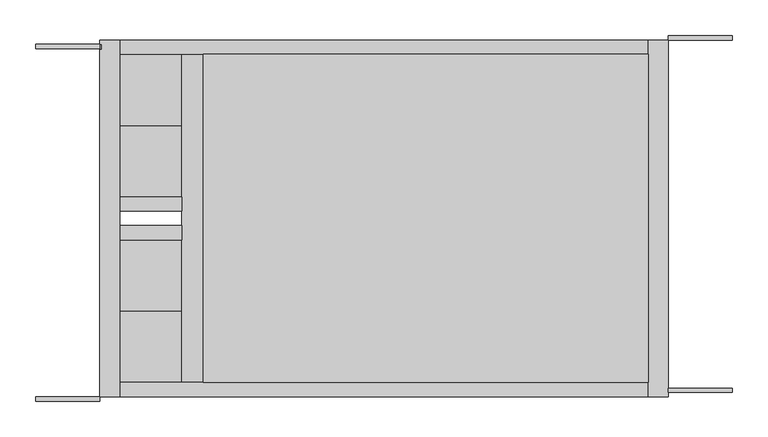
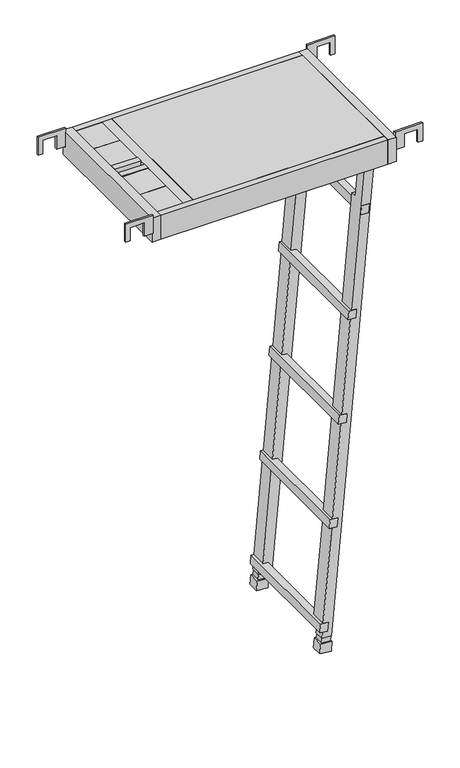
"""IFC4 building model written with IfcOpenShell, lengths in millimetres: proxy geometry, AK_アルミハッチ式布板NHYA-509(タラップ式)_軽 : AK_アルミハッチ式布板NHYA-509(タラップ式)_軽."""

from ifc_helpers import new_model, si_unit, point, frame, origin, place, context, project, spatial, polyline, circle_curve, ellipse_curve, trimmed, outline, extrude, faceted_brep, source, transform, mapped, element, save
from ifc_brep_helpers import plane_surface, cylinder_surface, revolved_surface, advanced_brep


def generic_models_0a2738e6(model_context):
    return source(origin(), model_context, "Body", "SolidModel", [
        extrude(outline(polyline([(38.4, 1763.0), (-23.2, 1763.0), (-23.2, 1792.5), (22.0, 1792.5), (22.0, 1837.5), (-23.2, 1837.5), (-23.2, 1852.5), (38.4, 1852.5), (38.4, 1763.0)])), frame((0.0, 12.0, 0.0), z_axis=(0.0, 1.0, 0.0), x_axis=(0.0, 0.0, 1.0)), (0.0, 0.0, 1.0), 6.0),
        extrude(outline(polyline([(38.4, 1763.0), (-23.2, 1763.0), (-23.2, 1792.5), (22.0, 1792.5), (22.0, 1837.5), (-23.2, 1837.5), (-23.2, 1852.5), (38.4, 1852.5), (38.4, 1763.0)])), frame((0.0, 506.0, 0.0), z_axis=(0.0, 1.0, 0.0), x_axis=(0.0, 0.0, 1.0)), (0.0, 0.0, 1.0), 6.0),
        extrude(outline(polyline([(38.4, 877.5), (-23.2, 877.5), (-23.2, 892.5), (22.0, 892.5), (22.0, 937.5), (-23.2, 937.5), (-23.2, 967.0), (38.4, 967.0), (38.4, 877.5)])), frame((0.0, 0.0, 0.0), z_axis=(0.0, 1.0, 0.0), x_axis=(0.0, 0.0, 1.0)), (0.0, 0.0, 1.0), 6.0),
        extrude(outline(polyline([(38.4, 877.5), (-23.2, 877.5), (-23.2, 892.5), (22.0, 892.5), (22.0, 937.5), (-23.2, 937.5), (-23.2, 967.0), (38.4, 967.0), (38.4, 877.5)])), frame((0.0, 494.0, 0.0), z_axis=(0.0, 1.0, 0.0), x_axis=(0.0, 0.0, 1.0)), (0.0, 0.0, 1.0), 6.0),
        faceted_brep([(967.0, 6.0, 25.0), (995.0, 6.0, 25.0), (995.0, 506.0, 25.0), (967.0, 506.0, 25.0), (967.0, 500.0, 25.0), (969.5811142, 500.0, 25.0), (969.5811142, 492.5494495, 25.0), (967.0, 492.5494495, 25.0), (967.0, 6.0, -58.0), (967.0, 506.0, -58.0), (995.0, 506.0, -58.0), (995.0, 6.0, -58.0), (967.0, 492.5494495, -31.8522814), (967.0, 500.0, -31.8522814), (969.5811142, 492.5494495, -31.8522814), (969.5811142, 500.0, -31.8522814)], [[[0, 1, 2, 3, 4, 5, 6, 7]], [[8, 9, 10, 11]], [[1, 0, 8, 11]], [[2, 1, 11, 10]], [[3, 2, 10, 9]], [[9, 8, 0, 7, 12, 13, 4, 3]], [[14, 15, 13, 12]], [[14, 12, 7, 6]], [[15, 14, 6, 5]], [[13, 15, 5, 4]]]),
        faceted_brep([(1696.8713185, 61.0, -7.6736677), (1728.7495289, 61.0, -10.4626497), (1728.7495289, 93.0919881, -10.4626497), (1696.8713185, 93.0919881, -7.6736677), (1679.8863585, 93.0919881, -201.8126482), (1679.8820205, 112.0, -201.8622315), (1648.1824256, 112.0, -564.1902597), (1648.1824256, 61.0, -564.1902597), (1645.6374521, 61.0, -593.2794397), (1645.6374521, 112.0, -593.2794397), (1617.6707877, 112.0, -912.9398761), (1617.6707877, 61.0, -912.9398761), (1615.1258406, 61.0, -942.0287555), (1615.1258406, 112.0, -942.0287555), (1587.1734055, 112.0, -1261.5265497), (1587.1734055, 61.0, -1261.5265497), (1556.6617677, 61.0, -1610.2761661), (1584.6284321, 61.0, -1290.6157297), (1584.6284321, 112.0, -1290.6157297), (1556.6617677, 112.0, -1610.2761661), (1556.6617677, 93.00001, -1610.2761661), (1711.7645689, 93.0919881, -204.6016302), (1584.192389, 61.0, -1662.7583192), (1584.192389, 93.00001, -1662.7583192), (1586.060255, 93.00001, -1641.4085133), (1586.060255, 112.0, -1641.4085133), (1711.7602309, 112.0, -204.6512136), (1664.5661476, 61.0, -565.6236607), (1662.0211838, 61.0, -594.7128222), (1634.0616404, 61.0, -914.3738797), (1631.5166964, 61.0, -943.4627825), (1603.5571276, 61.0, -1262.9599508), (1601.0121638, 61.0, -1292.0491122), (1573.0526204, 61.0, -1611.7101697), (1570.5076764, 61.0, -1640.7990725), (1554.1168205, 61.0, -1639.3650455), (1552.3141786, 61.0, -1659.9693372), (1703.6342525, 61.0, -247.3509654), (1678.5301647, 61.0, -245.1546225), (1681.0751108, 61.0, -216.0657553), (1706.1792017, 61.0, -218.2620631), (1570.5729014, 112.0, -1640.0535454), (1573.0526204, 112.0, -1611.7101697), (1601.0121638, 112.0, -1292.0491122), (1603.5571276, 112.0, -1262.9599508), (1631.5166964, 112.0, -943.4627825), (1634.0616404, 112.0, -914.3738797), (1662.0211838, 112.0, -594.7128222), (1664.5661476, 112.0, -565.6236607), (1678.5301647, 112.0, -245.1546225), (1703.6342525, 112.0, -247.3509654), (1706.1792017, 112.0, -218.2620631), (1681.0751108, 112.0, -216.0657553), (1570.5729014, 93.00001, -1640.0535454), (1586.0605663, 400.0, -1641.4085405), (1711.7605422, 400.0, -204.6512408), (1679.8820205, 400.0, -201.8622315), (1648.1824255, 400.0, -564.1902597), (1664.5661476, 400.0, -565.6236607), (1662.0211838, 400.0, -594.7128222), (1645.6374521, 400.0, -593.2794397), (1617.6707877, 400.0, -912.9398761), (1634.0616404, 400.0, -914.3738797), (1631.5166964, 400.0, -943.4627825), (1615.1258405, 400.0, -942.0287555), (1587.1734055, 400.0, -1261.5265497), (1603.5571276, 400.0, -1262.9599508), (1601.0121638, 400.0, -1292.0491122), (1584.628432, 400.0, -1290.6157297), (1556.6617677, 400.0, -1610.2761661), (1573.0526204, 400.0, -1611.7101697), (1570.5729014, 400.0, -1640.0535454), (1703.6342525, 400.0, -247.3509654), (1678.5301647, 400.0, -245.1546225), (1681.0751108, 400.0, -216.0657553), (1706.1792017, 400.0, -218.2620631), (1696.8713185, 451.0, -7.6736677), (1728.7495289, 451.0, -10.4626497), (1584.3535869, 451.0, -1660.9158185), (1552.4753765, 451.0, -1658.1268364), (1554.1168205, 451.0, -1639.3650455), (1570.5076764, 451.0, -1640.7990725), (1573.0526204, 451.0, -1611.7101697), (1556.6617677, 451.0, -1610.2761661), (1584.628432, 451.0, -1290.6157297), (1601.0121638, 451.0, -1292.0491122), (1603.5571276, 451.0, -1262.9599508), (1587.1734055, 451.0, -1261.5265497), (1615.1258405, 451.0, -942.0287555), (1631.5166964, 451.0, -943.4627825), (1634.0616404, 451.0, -914.3738797), (1617.6707877, 451.0, -912.9398761), (1645.6374521, 451.0, -593.2794397), (1662.0211838, 451.0, -594.7128222), (1664.5661476, 451.0, -565.6236607), (1648.1824256, 451.0, -564.1902597), (1678.5301647, 451.0, -245.1546225), (1703.6342525, 451.0, -247.3509654), (1706.1792017, 451.0, -218.2620631), (1681.0751108, 451.0, -216.0657553), (1696.8713184, 418.9080119, -7.6736677), (1679.8820205, 418.9080119, -201.8622315), (1556.6617677, 418.99999, -1610.2761661), (1570.5729014, 418.99999, -1640.0535454), (1586.0605663, 418.99999, -1641.4085405), (1584.3538982, 418.99999, -1660.9158457), (1728.7498401, 418.9080119, -10.4626769), (1711.7648802, 418.9080119, -204.6016575), (1703.6342525, 452.0, -247.3509654), (1678.5301647, 452.0, -245.1546225), (1681.0751108, 452.0, -216.0657553), (1706.1792017, 452.0, -218.2620631), (1703.6342525, 60.0, -247.3509654), (1706.1792017, 60.0, -218.2620631), (1681.0751108, 60.0, -216.0657553), (1678.5301647, 60.0, -245.1546225), (1636.9170612, 60.0, -592.5165088), (1662.0211838, 60.0, -594.7128222), (1664.5661476, 60.0, -565.6236607), (1639.4620596, 60.0, -563.4273206), (1636.9170612, 452.0, -592.5165088), (1639.4620596, 452.0, -563.4273206), (1664.5661476, 452.0, -565.6236607), (1662.0211838, 452.0, -594.7128222), (1608.9575496, 60.0, -912.1775719), (1606.4125766, 60.0, -941.2664368), (1631.5166964, 60.0, -943.4627825), (1634.0616404, 60.0, -914.3738797), (1608.9575496, 452.0, -912.1775719), (1634.0616404, 452.0, -914.3738797), (1631.5166964, 452.0, -943.4627825), (1606.4125766, 452.0, -941.2664368), (1578.4530396, 60.0, -1260.7636107), (1575.9080412, 60.0, -1289.8527988), (1601.0121638, 60.0, -1292.0491122), (1603.5571276, 60.0, -1262.9599508), (1578.4530396, 452.0, -1260.7636107), (1603.5571276, 452.0, -1262.9599508), (1601.0121638, 452.0, -1292.0491122), (1575.9080412, 452.0, -1289.8527988), (1547.9485296, 60.0, -1609.513862), (1545.4035566, 60.0, -1638.6027268), (1570.5076764, 60.0, -1640.7990725), (1573.0526204, 60.0, -1611.7101697), (1547.9485296, 452.0, -1609.513862), (1573.0526204, 452.0, -1611.7101697), (1570.5076764, 452.0, -1640.7990725), (1545.4035566, 452.0, -1638.6027268), (1554.1168205, 418.99999, -1639.3650455), (1570.5076764, 418.99999, -1640.7990725), (1570.5076764, 93.00001, -1640.7990725), (1554.1168205, 93.00001, -1639.3650455), (1552.4753765, 418.99999, -1658.1268364), (1552.3141786, 93.00001, -1659.9693372)], [[[0, 1, 2, 3]], [[0, 3, 4, 5, 6, 7]], [[8, 9, 10, 11]], [[12, 13, 14, 15]], [[16, 17, 18, 19, 20]], [[3, 2, 21, 4]], [[2, 1, 22, 23, 24, 25, 26, 21]], [[22, 1, 0, 7, 27, 28, 8, 11, 29, 30, 12, 15, 31, 32, 17, 16, 33, 34, 35, 36], [37, 38, 39, 40]], [[5, 26, 25, 41, 42, 19, 18, 43, 44, 14, 13, 45, 46, 10, 9, 47, 48, 6], [49, 50, 51, 52]], [[41, 25, 24, 53]], [[26, 5, 4, 21]], [[54, 55, 56, 57, 58, 59, 60, 61, 62, 63, 64, 65, 66, 67, 68, 69, 70, 71], [72, 73, 74, 75]], [[76, 77, 78, 79, 80, 81, 82, 83, 84, 85, 86, 87, 88, 89, 90, 91, 92, 93, 94, 95], [96, 97, 98, 99]], [[100, 76, 95, 57, 56, 101]], [[60, 92, 91, 61]], [[64, 88, 87, 65]], [[68, 84, 83, 102, 69]], [[54, 71, 103, 104]], [[55, 54, 104, 105, 78, 77, 106, 107]], [[56, 55, 107, 101]], [[108, 109, 110, 111]], [[112, 113, 114, 115]], [[109, 108, 97, 96]], [[112, 115, 38, 37]], [[72, 50, 49, 73]], [[110, 109, 96, 99]], [[115, 114, 39, 38]], [[73, 49, 52, 74]], [[111, 110, 99, 98]], [[114, 113, 40, 39]], [[74, 52, 51, 75]], [[108, 111, 98, 97]], [[113, 112, 37, 40]], [[50, 72, 75, 51]], [[76, 100, 106, 77]], [[106, 100, 101, 107]], [[116, 117, 118, 119]], [[120, 121, 122, 123]], [[117, 116, 120, 123, 93, 92, 60, 59, 47, 9, 8, 28]], [[118, 117, 28, 27]], [[123, 122, 94, 93]], [[47, 59, 58, 48]], [[119, 118, 27, 7, 6, 48, 58, 57, 95, 94, 122, 121]], [[116, 119, 121, 120]], [[124, 125, 126, 127]], [[128, 129, 130, 131]], [[125, 124, 128, 131]], [[126, 125, 131, 130, 89, 88, 64, 63, 45, 13, 12, 30]], [[127, 126, 30, 29]], [[130, 129, 90, 89]], [[45, 63, 62, 46]], [[124, 127, 29, 11, 10, 46, 62, 61, 91, 90, 129, 128]], [[132, 133, 134, 135]], [[136, 137, 138, 139]], [[133, 132, 136, 139]], [[134, 133, 139, 138, 85, 84, 68, 67, 43, 18, 17, 32]], [[135, 134, 32, 31]], [[138, 137, 86, 85]], [[43, 67, 66, 44]], [[132, 135, 31, 15, 14, 44, 66, 65, 87, 86, 137, 136]], [[140, 141, 142, 143]], [[144, 145, 146, 147]], [[141, 140, 144, 147]], [[142, 141, 147, 146, 81, 80, 148, 149, 150, 151, 35, 34]], [[143, 142, 34, 33]], [[146, 145, 82, 81]], [[70, 42, 41, 53, 150, 149, 103, 71]], [[140, 143, 33, 16, 20, 19, 42, 70, 69, 102, 83, 82, 145, 144]], [[78, 105, 152, 79]], [[79, 152, 148, 80]], [[152, 105, 104, 103, 149, 148]], [[22, 36, 153, 23]], [[153, 36, 35, 151]], [[23, 153, 151, 150, 53, 24]]]),
        advanced_brep(
        [(1701.4537998, 26.0, -30.0), (1693.4537998, 26.0, -30.0), (1693.4537998, 90.1689973, -30.0), (1701.4537998, 90.1689973, -30.0), (1713.8086099, 102.5238074, -30.0), (1713.8086099, 110.5238074, -30.0), (1728.8086099, 102.5238074, -30.0), (1728.8086099, 110.5238074, -30.0)],
        [
            (0, 1, circle_curve(frame((1697.4537998, 26.0, -30.0), z_axis=(0.0, -1.0, 0.0), x_axis=(-1.0, 0.0, 0.0)), 4.0)),
            (1, 0, circle_curve(frame((1697.4537998, 26.0, -30.0), z_axis=(0.0, -1.0, 0.0), x_axis=(-1.0, 0.0, 0.0)), 4.0)),
            (1, 2),
            (2, 3, circle_curve(frame((1697.4537998, 90.1689973, -30.0), z_axis=(0.0, -1.0, 0.0), x_axis=(-1.0, 0.0, 0.0)), 4.0)),
            (3, 0),
            (3, 2, circle_curve(frame((1697.4537998, 90.1689973, -30.0), z_axis=(0.0, -1.0, 0.0), x_axis=(-1.0, 0.0, 0.0)), 4.0)),
            (4, 3, circle_curve(frame((1713.8086099, 90.1689973, -30.0), z_axis=(0.0, 0.0, 1.0), x_axis=(-1.0, 0.0, 0.0)), 12.35481)),
            (2, 5, circle_curve(frame((1713.8086099, 90.1689973, -30.0), z_axis=(0.0, 0.0, -1.0), x_axis=(-1.0, 0.0, 0.0)), 20.35481)),
            (5, 4, circle_curve(frame((1713.8086099, 106.5238074, -30.0), z_axis=(-1.0, 0.0, 0.0), x_axis=(0.0, 1.0, 0.0)), 4.0)),
            (4, 5, circle_curve(frame((1713.8086099, 106.5238074, -30.0), z_axis=(-1.0, 0.0, 0.0), x_axis=(0.0, 1.0, 0.0)), 4.0)),
            (6, 7, circle_curve(frame((1728.8086099, 106.5238074, -30.0), z_axis=(1.0, 0.0, 0.0), x_axis=(0.0, 1.0, 0.0)), 4.0)),
            (7, 6, circle_curve(frame((1728.8086099, 106.5238074, -30.0), z_axis=(1.0, 0.0, 0.0), x_axis=(0.0, 1.0, 0.0)), 4.0)),
            (5, 7),
            (6, 4),
        ],
        [
            plane_surface(frame((1697.4537998, 26.0, -30.0), z_axis=(0.0, -1.0, 0.0), x_axis=(0.0, 0.0, 1.0))),
            cylinder_surface(frame((1697.4537998, 26.0, -30.0), z_axis=(0.0, -1.0, 0.0), x_axis=(-1.0, 0.0, 0.0)), 4.0),
            revolved_surface(trimmed(ellipse_curve(frame((1697.4537998, 90.1689973, -30.0), z_axis=(0.0, -1.0, 0.0), x_axis=(-1.0, 0.0, 0.0)), 4.0, 4.0), [point((1693.4537998, 90.1689973, -30.0))], [point((1701.4537998, 90.1689973, -30.0))], True, "CARTESIAN"), (1713.8086099, 90.1689973, -30.0), (0.0, 0.0, -1.0)),
            revolved_surface(trimmed(ellipse_curve(frame((1697.4537998, 90.1689973, -30.0), z_axis=(0.0, -1.0, 0.0), x_axis=(-1.0, 0.0, 0.0)), 4.0, 4.0), [point((1701.4537998, 90.1689973, -30.0))], [point((1693.4537998, 90.1689973, -30.0))], True, "CARTESIAN"), (1713.8086099, 90.1689973, -30.0), (0.0, 0.0, -1.0)),
            plane_surface(frame((1728.8086099, 106.5238074, -30.0), z_axis=(1.0, 0.0, 0.0), x_axis=(0.0, 0.0, 1.0))),
            cylinder_surface(frame((1713.8086099, 106.5238074, -30.0), z_axis=(-1.0, 0.0, 0.0), x_axis=(0.0, 1.0, 0.0)), 4.0),
        ],
        [
            (0, [[1, 2]]),
            (1, [[-2, 3, 4, 5]]),
            (1, [[-1, -5, 6, -3]]),
            (2, [[7, -4, 8, 9]]),
            (3, [[-8, -6, -7, 10]]),
            (4, [[11, 12]]),
            (5, [[-9, 13, -11, 14]]),
            (5, [[-10, -14, -12, -13]]),
        ],
    ),
        advanced_brep(
        [(1693.4537998, 486.0, -30.0), (1701.4537998, 486.0, -30.0), (1693.4537998, 421.8310027, -30.0), (1701.4537998, 421.8310027, -30.0), (1713.8086099, 409.4761926, -30.0), (1713.8086099, 401.4761926, -30.0), (1728.8086099, 401.4761926, -30.0), (1728.8086099, 409.4761926, -30.0)],
        [
            (0, 1, circle_curve(frame((1697.4537998, 486.0, -30.0), z_axis=(0.0, 1.0, 0.0), x_axis=(1.0, 0.0, 0.0)), 4.0)),
            (1, 0, circle_curve(frame((1697.4537998, 486.0, -30.0), z_axis=(0.0, 1.0, 0.0), x_axis=(1.0, 0.0, 0.0)), 4.0)),
            (0, 2),
            (2, 3, circle_curve(frame((1697.4537998, 421.8310027, -30.0), z_axis=(0.0, 1.0, 0.0), x_axis=(1.0, 0.0, 0.0)), 4.0)),
            (3, 1),
            (3, 2, circle_curve(frame((1697.4537998, 421.8310027, -30.0), z_axis=(0.0, 1.0, 0.0), x_axis=(1.0, 0.0, 0.0)), 4.0)),
            (4, 3, circle_curve(frame((1713.8086099, 421.8310027, -30.0), z_axis=(0.0, 0.0, -1.0), x_axis=(-1.0, 0.0, 0.0)), 12.35481)),
            (2, 5, circle_curve(frame((1713.8086099, 421.8310027, -30.0), z_axis=(0.0, 0.0, 1.0), x_axis=(-1.0, 0.0, 0.0)), 20.35481)),
            (5, 4, circle_curve(frame((1713.8086099, 405.4761926, -30.0), z_axis=(-1.0, 0.0, 0.0), x_axis=(0.0, 1.0, 0.0)), 4.0)),
            (4, 5, circle_curve(frame((1713.8086099, 405.4761926, -30.0), z_axis=(-1.0, 0.0, 0.0), x_axis=(0.0, 1.0, 0.0)), 4.0)),
            (6, 7, circle_curve(frame((1728.8086099, 405.4761926, -30.0), z_axis=(1.0, 0.0, 0.0), x_axis=(0.0, 1.0, 0.0)), 4.0)),
            (7, 6, circle_curve(frame((1728.8086099, 405.4761926, -30.0), z_axis=(1.0, 0.0, 0.0), x_axis=(0.0, 1.0, 0.0)), 4.0)),
            (5, 6),
            (7, 4),
        ],
        [
            plane_surface(frame((1697.4537998, 486.0, -30.0), z_axis=(0.0, 1.0, 0.0), x_axis=(0.0, 0.0, 1.0))),
            cylinder_surface(frame((1697.4537998, 486.0, -30.0), z_axis=(0.0, 1.0, 0.0), x_axis=(1.0, 0.0, 0.0)), 4.0),
            revolved_surface(trimmed(ellipse_curve(frame((1697.4537998, 421.8310027, -30.0), z_axis=(0.0, 1.0, 0.0), x_axis=(1.0, 0.0, 0.0)), 4.0, 4.0), [point((1693.4537998, 421.8310027, -30.0))], [point((1701.4537998, 421.8310027, -30.0))], True, "CARTESIAN"), (1713.8086099, 421.8310027, -30.0), (0.0, 0.0, 1.0)),
            revolved_surface(trimmed(ellipse_curve(frame((1697.4537998, 421.8310027, -30.0), z_axis=(0.0, 1.0, 0.0), x_axis=(1.0, 0.0, 0.0)), 4.0, 4.0), [point((1701.4537998, 421.8310027, -30.0))], [point((1693.4537998, 421.8310027, -30.0))], True, "CARTESIAN"), (1713.8086099, 421.8310027, -30.0), (0.0, 0.0, 1.0)),
            plane_surface(frame((1728.8086099, 405.4761926, -30.0), z_axis=(1.0, 0.0, 0.0), x_axis=(0.0, 0.0, 1.0))),
            cylinder_surface(frame((1713.8086099, 405.4761926, -30.0), z_axis=(-1.0, 0.0, 0.0), x_axis=(0.0, 1.0, 0.0)), 4.0),
        ],
        [
            (0, [[1, 2]]),
            (1, [[-1, 3, 4, 5]]),
            (1, [[-2, -5, 6, -3]]),
            (2, [[7, -4, 8, 9]]),
            (3, [[-8, -6, -7, 10]]),
            (4, [[11, 12]]),
            (5, [[-9, 13, -12, 14]]),
            (5, [[-10, -14, -11, -13]]),
        ],
    ),
        extrude(outline(polyline([(0.0, 0.0), (36.2320505, 0.0), (36.2320505, -37.6491626), (0.0, -37.6491626), (0.0, 0.0)])), frame((1581.7880686, 453.2223742, -1712.979101), z_axis=(0.08715574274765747, 0.0, 0.9961946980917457), x_axis=(0.0, -1.0, 0.0)), (0.0, 0.0, 1.0), 32.7312455),
        extrude(outline(polyline([(49.0120246, 0.0), (86.6611873, 0.0), (86.6611873, -36.2320505), (49.0120246, -36.2320505), (49.0120246, 0.0)])), frame((1630.6135877, 58.7776258, -1717.2507804), z_axis=(0.08715574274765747, 0.0, 0.9961946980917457), x_axis=(-0.9961946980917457, 0.0, 0.08715574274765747)), (0.0, 0.0, 1.0), 32.7312455),
        extrude(outline(polyline([(0.0, 0.0), (28.1293092, 0.0), (28.1293092, -28.1661485), (0.0, -28.1661485), (0.0, 0.0)])), frame((1580.7901708, 449.0672328, -1680.0355227), z_axis=(0.08715574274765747, 0.0, 0.9961946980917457), x_axis=(0.0, -1.0, 0.0)), (0.0, 0.0, 1.0), 19.3575202),
        extrude(outline(polyline([(20.3901804, 0.0), (48.5563289, 0.0), (48.5563289, -28.1293092), (20.3901804, -28.1293092), (20.3901804, 0.0)])), frame((1601.1027604, 62.9327672, -1681.812644), z_axis=(0.08715574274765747, 0.0, 0.9961946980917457), x_axis=(-0.9961946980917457, 0.0, 0.08715574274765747)), (0.0, 0.0, 1.0), 17.5079813),
        extrude(outline(polyline([(1735.0, 486.0), (1735.0, 26.0), (1112.0, 26.0), (1112.0, 486.0), (1735.0, 486.0)])), frame((0.0, 0.0, 22.5), z_axis=(0.0, 0.0, 1.0), x_axis=(1.0, 0.0, 0.0)), (0.0, 0.0, 1.0), 2.5),
        extrude(outline(polyline([(1112.0, 26.0), (1081.80002, 26.0), (1081.80002, 486.0), (1112.0, 486.0), (1112.0, 26.0)])), frame((0.0, 0.0, -20.0), z_axis=(0.0, 0.0, 1.0), x_axis=(1.0, 0.0, 0.0)), (0.0, 0.0, 1.0), 44.1),
        extrude(outline(polyline([(1081.80002, 486.0), (1081.80002, 386.0), (995.0, 386.0), (995.0, 486.0), (1081.80002, 486.0)])), frame((0.0, 0.0, 17.5), z_axis=(0.0, 0.0, 1.0), x_axis=(1.0, 0.0, 0.0)), (0.0, 0.0, 1.0), 5.0),
        extrude(outline(polyline([(1081.80002, 386.0), (1081.80002, 286.0), (995.0, 286.0), (995.0, 386.0), (1081.80002, 386.0)])), frame((0.0, 0.0, 17.5), z_axis=(0.0, 0.0, 1.0), x_axis=(1.0, 0.0, 0.0)), (0.0, 0.0, 1.0), 5.0),
        extrude(outline(polyline([(1081.80002, 226.0), (1081.80002, 126.0), (995.0, 126.0), (995.0, 226.0), (1081.80002, 226.0)])), frame((0.0, 0.0, 17.5), z_axis=(0.0, 0.0, 1.0), x_axis=(1.0, 0.0, 0.0)), (0.0, 0.0, 1.0), 5.0),
        extrude(outline(polyline([(1081.80002, 126.0), (1081.80002, 26.0), (995.0, 26.0), (995.0, 126.0), (1081.80002, 126.0)])), frame((0.0, 0.0, 17.5), z_axis=(0.0, 0.0, 1.0), x_axis=(1.0, 0.0, 0.0)), (0.0, 0.0, 1.0), 5.0),
        extrude(outline(polyline([(1081.80002, 286.0), (1081.80002, 266.0), (995.0, 266.0), (995.0, 286.0), (1081.80002, 286.0)])), frame((0.0, 0.0, -20.0), z_axis=(0.0, 0.0, 1.0), x_axis=(1.0, 0.0, 0.0)), (0.0, 0.0, 1.0), 45.0),
        extrude(outline(polyline([(1081.80002, 246.0), (1081.80002, 226.0), (995.0, 226.0), (995.0, 246.0), (1081.80002, 246.0)])), frame((0.0, 0.0, -20.0), z_axis=(0.0, 0.0, 1.0), x_axis=(1.0, 0.0, 0.0)), (0.0, 0.0, 1.0), 45.0),
        extrude(outline(polyline([(1735.0, 6.0), (1735.0, 506.0), (1763.0, 506.0), (1763.0, 6.0), (1735.0, 6.0)])), frame((0.0, 0.0, -58.0), z_axis=(0.0, 0.0, 1.0), x_axis=(1.0, 0.0, 0.0)), (0.0, 0.0, 1.0), 83.0),
        extrude(outline(polyline([(1735.0, 506.0), (1735.0, 486.0), (995.0, 486.0), (995.0, 506.0), (1735.0, 506.0)])), frame((0.0, 0.0, -58.0), z_axis=(0.0, 0.0, 1.0), x_axis=(1.0, 0.0, 0.0)), (0.0, 0.0, 1.0), 83.0),
        extrude(outline(polyline([(1735.0, 26.0), (1735.0, 6.0), (995.0, 6.0), (995.0, 26.0), (1735.0, 26.0)])), frame((0.0, 0.0, -58.0), z_axis=(0.0, 0.0, 1.0), x_axis=(1.0, 0.0, 0.0)), (0.0, 0.0, 1.0), 83.0),
    ])


if __name__ == "__main__":
    model = new_model("IFC4")
    model_context = context("Model", 3, world=origin())
    ifc_project = project(units=[si_unit("LENGTHUNIT", "METRE", prefix="MILLI")], contexts=[model_context])
    site = spatial("IfcSite", under=ifc_project)
    building = spatial("IfcBuilding", under=site)
    placement = place(None, origin())
    generic_models_shape = generic_models_0a2738e6(model_context)
    element("IfcBuildingElementProxy", 1, Name="AK_アルミハッチ式布板NHYA-509(タラップ式)_軽 : AK_アルミハッチ式布板NHYA-509(タラップ式)_軽", ObjectType="AK_アルミハッチ式布板NHYA-509(タラップ式)_軽 : AK_アルミハッチ式布板NHYA-509(タラップ式)_軽", at=placement, inside=building, context=model_context, shape_type="MappedRepresentation", body=[
        mapped(generic_models_shape, transform((0.0, 0.0, 0.0), x_axis=(1.0, 0.0, 0.0), y_axis=(0.0, 1.0, 0.0), z_axis=(0.0, 0.0, 1.0))),
    ])
    save(model, "model.ifc")
